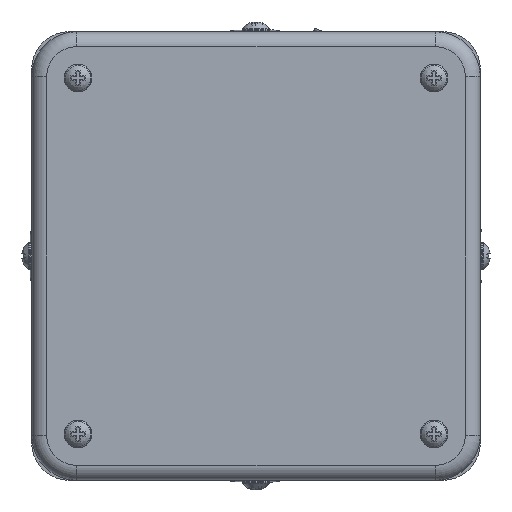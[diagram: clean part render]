
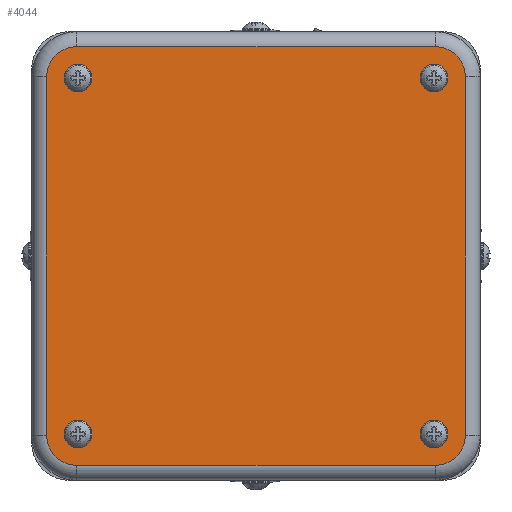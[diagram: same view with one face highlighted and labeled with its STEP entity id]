
A CAD part, left-side view. The second image highlights one B-rep face of the part: STEP entity #4044.
In plain terms, the highlighted planar face has unit normal (-1, 0, 0).
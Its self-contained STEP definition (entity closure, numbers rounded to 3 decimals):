
#308=CARTESIAN_POINT('',(-123.672,-31.097,-23.376));
#309=VERTEX_POINT('',#308);
#310=CARTESIAN_POINT('',(-123.672,-33.897,-23.376));
#311=DIRECTION('',(1.0,0.0,0.0));
#312=DIRECTION('',(0.0,-1.0,0.0));
#313=AXIS2_PLACEMENT_3D('',#310,#311,#312);
#314=CIRCLE('',#313,2.8);
#315=EDGE_CURVE('',#309,#309,#314,.T.);
#917=CARTESIAN_POINT('',(-123.672,40.32,-23.376));
#918=VERTEX_POINT('',#917);
#919=CARTESIAN_POINT('',(-123.672,37.52,-23.376));
#920=DIRECTION('',(1.0,0.0,0.0));
#921=DIRECTION('',(0.0,-1.0,0.0));
#922=AXIS2_PLACEMENT_3D('',#919,#920,#921);
#923=CIRCLE('',#922,2.8);
#924=EDGE_CURVE('',#918,#918,#923,.T.);
#3941=CARTESIAN_POINT('',(-123.672,8.839,5.306));
#3942=DIRECTION('',(1.0,0.0,0.0));
#3943=DIRECTION('',(0.0,1.0,0.0));
#3944=AXIS2_PLACEMENT_3D('',#3941,#3942,#3943);
#3945=PLANE('',#3944);
#3946=CARTESIAN_POINT('',(-123.672,37.811,-29.667));
#3947=VERTEX_POINT('',#3946);
#3948=CARTESIAN_POINT('',(-123.672,43.811,-23.667));
#3949=VERTEX_POINT('',#3948);
#3950=CARTESIAN_POINT('',(-123.672,37.811,-23.667));
#3951=DIRECTION('',(1.,0.,0.));
#3952=DIRECTION('',(0.,0.707,-0.707));
#3953=AXIS2_PLACEMENT_3D('',#3950,#3951,#3952);
#3954=CIRCLE('',#3953,6.);
#3955=EDGE_CURVE('',#3947,#3949,#3954,.T.);
#3956=ORIENTED_EDGE('',*,*,#3955,.F.);
#3957=CARTESIAN_POINT('',(-123.672,-34.189,-29.667));
#3958=VERTEX_POINT('',#3957);
#3959=CARTESIAN_POINT('',(-123.672,-34.189,-29.667));
#3960=DIRECTION('',(0.0,1.0,0.0));
#3961=VECTOR('',#3960,72.0);
#3962=LINE('',#3959,#3961);
#3963=EDGE_CURVE('',#3958,#3947,#3962,.T.);
#3964=ORIENTED_EDGE('',*,*,#3963,.F.);
#3965=CARTESIAN_POINT('',(-123.672,-40.189,-23.667));
#3966=VERTEX_POINT('',#3965);
#3967=CARTESIAN_POINT('',(-123.672,-34.189,-23.667));
#3968=DIRECTION('',(1.,0.,0.));
#3969=DIRECTION('',(0.,-0.707,-0.707));
#3970=AXIS2_PLACEMENT_3D('',#3967,#3968,#3969);
#3971=CIRCLE('',#3970,6.);
#3972=EDGE_CURVE('',#3966,#3958,#3971,.T.);
#3973=ORIENTED_EDGE('',*,*,#3972,.F.);
#3974=CARTESIAN_POINT('',(-123.672,-40.189,48.333));
#3975=VERTEX_POINT('',#3974);
#3976=CARTESIAN_POINT('',(-123.672,-40.189,48.333));
#3977=DIRECTION('',(0.0,0.0,-1.0));
#3978=VECTOR('',#3977,72.0);
#3979=LINE('',#3976,#3978);
#3980=EDGE_CURVE('',#3975,#3966,#3979,.T.);
#3981=ORIENTED_EDGE('',*,*,#3980,.F.);
#3982=CARTESIAN_POINT('',(-123.672,-34.189,54.333));
#3983=VERTEX_POINT('',#3982);
#3984=CARTESIAN_POINT('',(-123.672,-34.189,48.333));
#3985=DIRECTION('',(1.,0.,0.));
#3986=DIRECTION('',(0.,-0.707,0.707));
#3987=AXIS2_PLACEMENT_3D('',#3984,#3985,#3986);
#3988=CIRCLE('',#3987,6.);
#3989=EDGE_CURVE('',#3983,#3975,#3988,.T.);
#3990=ORIENTED_EDGE('',*,*,#3989,.F.);
#3991=CARTESIAN_POINT('',(-123.672,37.811,54.333));
#3992=VERTEX_POINT('',#3991);
#3993=CARTESIAN_POINT('',(-123.672,37.811,54.333));
#3994=DIRECTION('',(0.0,-1.0,0.0));
#3995=VECTOR('',#3994,72.);
#3996=LINE('',#3993,#3995);
#3997=EDGE_CURVE('',#3992,#3983,#3996,.T.);
#3998=ORIENTED_EDGE('',*,*,#3997,.F.);
#3999=CARTESIAN_POINT('',(-123.672,43.811,48.333));
#4000=VERTEX_POINT('',#3999);
#4001=CARTESIAN_POINT('',(-123.672,37.811,48.333));
#4002=DIRECTION('',(1.,0.,0.));
#4003=DIRECTION('',(0.,0.707,0.707));
#4004=AXIS2_PLACEMENT_3D('',#4001,#4002,#4003);
#4005=CIRCLE('',#4004,6.);
#4006=EDGE_CURVE('',#4000,#3992,#4005,.T.);
#4007=ORIENTED_EDGE('',*,*,#4006,.F.);
#4008=CARTESIAN_POINT('',(-123.672,43.811,-23.667));
#4009=DIRECTION('',(0.0,0.0,1.0));
#4010=VECTOR('',#4009,72.0);
#4011=LINE('',#4008,#4010);
#4012=EDGE_CURVE('',#3949,#4000,#4011,.T.);
#4013=ORIENTED_EDGE('',*,*,#4012,.F.);
#4014=EDGE_LOOP('',(#3956,#3964,#3973,#3981,#3990,#3998,#4007,#4013));
#4015=FACE_OUTER_BOUND('',#4014,.T.);
#4016=CARTESIAN_POINT('',(-123.672,-31.097,48.042));
#4017=VERTEX_POINT('',#4016);
#4018=CARTESIAN_POINT('',(-123.672,-33.897,48.042));
#4019=DIRECTION('',(1.0,0.0,0.0));
#4020=DIRECTION('',(0.0,-1.0,0.0));
#4021=AXIS2_PLACEMENT_3D('',#4018,#4019,#4020);
#4022=CIRCLE('',#4021,2.8);
#4023=EDGE_CURVE('',#4017,#4017,#4022,.T.);
#4024=ORIENTED_EDGE('',*,*,#4023,.T.);
#4025=EDGE_LOOP('',(#4024));
#4026=FACE_BOUND('',#4025,.T.);
#4027=ORIENTED_EDGE('',*,*,#315,.T.);
#4028=EDGE_LOOP('',(#4027));
#4029=FACE_BOUND('',#4028,.T.);
#4030=CARTESIAN_POINT('',(-123.672,40.32,48.042));
#4031=VERTEX_POINT('',#4030);
#4032=CARTESIAN_POINT('',(-123.672,37.52,48.042));
#4033=DIRECTION('',(1.0,0.0,0.0));
#4034=DIRECTION('',(0.0,-1.0,0.0));
#4035=AXIS2_PLACEMENT_3D('',#4032,#4033,#4034);
#4036=CIRCLE('',#4035,2.8);
#4037=EDGE_CURVE('',#4031,#4031,#4036,.T.);
#4038=ORIENTED_EDGE('',*,*,#4037,.T.);
#4039=EDGE_LOOP('',(#4038));
#4040=FACE_BOUND('',#4039,.T.);
#4041=ORIENTED_EDGE('',*,*,#924,.T.);
#4042=EDGE_LOOP('',(#4041));
#4043=FACE_BOUND('',#4042,.T.);
#4044=ADVANCED_FACE('',(#4015,#4026,#4029,#4040,#4043),#3945,.F.);
